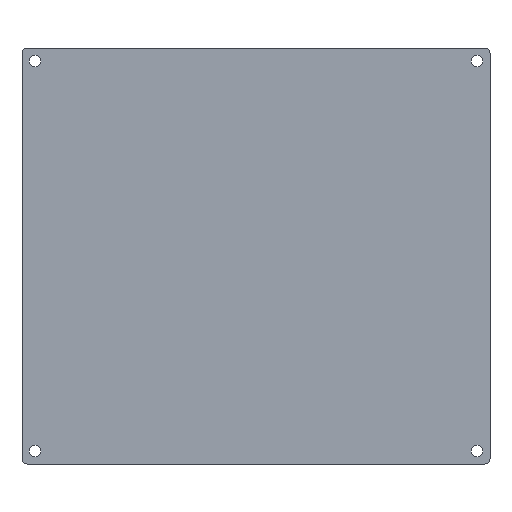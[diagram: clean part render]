
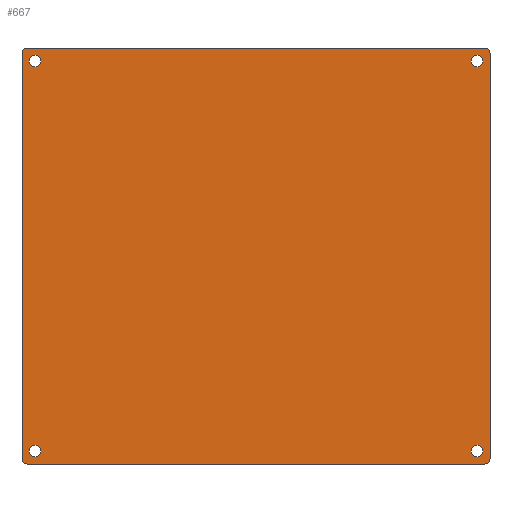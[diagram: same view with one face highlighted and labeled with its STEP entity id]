
A CAD part, front view. The second image highlights one B-rep face of the part: STEP entity #667.
In plain terms, the highlighted planar face has unit normal (0, -1, 0).
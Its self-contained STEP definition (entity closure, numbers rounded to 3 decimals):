
#93=FACE_BOUND('',#1347,.T.);
#94=FACE_BOUND('',#1348,.T.);
#95=FACE_BOUND('',#1349,.T.);
#96=FACE_BOUND('',#1350,.T.);
#97=FACE_BOUND('',#1351,.T.);
#355=CIRCLE('',#5296,2.25);
#356=CIRCLE('',#5298,2.25);
#357=CIRCLE('',#5300,2.25);
#358=CIRCLE('',#5302,2.25);
#359=CIRCLE('',#5304,2.25);
#360=CIRCLE('',#5306,2.25);
#361=CIRCLE('',#5308,2.25);
#362=CIRCLE('',#5310,2.25);
#363=CIRCLE('',#5312,2.);
#364=CIRCLE('',#5314,2.);
#428=CIRCLE('',#5424,2.);
#434=CIRCLE('',#5435,2.);
#667=ADVANCED_FACE('NONE',(#93,#94,#95,#96,#97),#887,.T.);
#887=PLANE('',#5437);
#1347=EDGE_LOOP('',(#1978,#1979,#1980,#1981,#1982,#1983,#1984,#1985));
#1348=EDGE_LOOP('',(#1986,#1987));
#1349=EDGE_LOOP('',(#1988,#1989));
#1350=EDGE_LOOP('',(#1990,#1991));
#1351=EDGE_LOOP('',(#1992,#1993));
#1978=ORIENTED_EDGE('',*,*,#3736,.F.);
#1979=ORIENTED_EDGE('',*,*,#3799,.T.);
#1980=ORIENTED_EDGE('',*,*,#3800,.F.);
#1981=ORIENTED_EDGE('',*,*,#3787,.T.);
#1982=ORIENTED_EDGE('',*,*,#3764,.F.);
#1983=ORIENTED_EDGE('',*,*,#3654,.T.);
#1984=ORIENTED_EDGE('',*,*,#3721,.F.);
#1985=ORIENTED_EDGE('',*,*,#3651,.T.);
#1986=ORIENTED_EDGE('',*,*,#3649,.T.);
#1987=ORIENTED_EDGE('',*,*,#3646,.T.);
#1988=ORIENTED_EDGE('',*,*,#3645,.T.);
#1989=ORIENTED_EDGE('',*,*,#3642,.T.);
#1990=ORIENTED_EDGE('',*,*,#3641,.T.);
#1991=ORIENTED_EDGE('',*,*,#3638,.T.);
#1992=ORIENTED_EDGE('',*,*,#3637,.T.);
#1993=ORIENTED_EDGE('',*,*,#3634,.T.);
#3134=VERTEX_POINT('',#7539);
#3135=VERTEX_POINT('',#7540);
#3136=VERTEX_POINT('',#7547);
#3137=VERTEX_POINT('',#7548);
#3138=VERTEX_POINT('',#7555);
#3139=VERTEX_POINT('',#7556);
#3140=VERTEX_POINT('',#7563);
#3141=VERTEX_POINT('',#7564);
#3142=VERTEX_POINT('',#7571);
#3143=VERTEX_POINT('',#7573);
#3144=VERTEX_POINT('',#7577);
#3145=VERTEX_POINT('',#7579);
#3196=VERTEX_POINT('',#7741);
#3216=VERTEX_POINT('',#7799);
#3231=VERTEX_POINT('',#7844);
#3237=VERTEX_POINT('',#7866);
#3634=EDGE_CURVE('NONE',#3134,#3135,#355,.T.);
#3637=EDGE_CURVE('NONE',#3135,#3134,#356,.T.);
#3638=EDGE_CURVE('NONE',#3136,#3137,#357,.T.);
#3641=EDGE_CURVE('NONE',#3137,#3136,#358,.T.);
#3642=EDGE_CURVE('NONE',#3138,#3139,#359,.T.);
#3645=EDGE_CURVE('NONE',#3139,#3138,#360,.T.);
#3646=EDGE_CURVE('NONE',#3140,#3141,#361,.T.);
#3649=EDGE_CURVE('NONE',#3141,#3140,#362,.T.);
#3651=EDGE_CURVE('NONE',#3143,#3142,#363,.T.);
#3654=EDGE_CURVE('NONE',#3145,#3144,#364,.T.);
#3721=EDGE_CURVE('NONE',#3143,#3144,#4371,.T.);
#3736=EDGE_CURVE('NONE',#3196,#3142,#4383,.T.);
#3764=EDGE_CURVE('NONE',#3145,#3216,#4403,.T.);
#3787=EDGE_CURVE('NONE',#3231,#3216,#428,.T.);
#3799=EDGE_CURVE('NONE',#3196,#3237,#434,.T.);
#3800=EDGE_CURVE('NONE',#3231,#3237,#4419,.T.);
#4371=LINE('',#7712,#4841);
#4383=LINE('',#7742,#4853);
#4403=LINE('',#7798,#4873);
#4419=LINE('',#7869,#4889);
#4841=VECTOR('',#6157,1.);
#4853=VECTOR('',#6187,1.);
#4873=VECTOR('',#6241,1.);
#4889=VECTOR('',#6323,1.);
#5296=AXIS2_PLACEMENT_3D('',#7538,#5955,#5956);
#5298=AXIS2_PLACEMENT_3D('',#7544,#5961,#5962);
#5300=AXIS2_PLACEMENT_3D('',#7546,#5965,#5966);
#5302=AXIS2_PLACEMENT_3D('',#7552,#5971,#5972);
#5304=AXIS2_PLACEMENT_3D('',#7554,#5975,#5976);
#5306=AXIS2_PLACEMENT_3D('',#7560,#5981,#5982);
#5308=AXIS2_PLACEMENT_3D('',#7562,#5985,#5986);
#5310=AXIS2_PLACEMENT_3D('',#7568,#5991,#5992);
#5312=AXIS2_PLACEMENT_3D('',#7572,#5996,#5997);
#5314=AXIS2_PLACEMENT_3D('',#7578,#6002,#6003);
#5424=AXIS2_PLACEMENT_3D('',#7843,#6291,#6292);
#5435=AXIS2_PLACEMENT_3D('',#7867,#6319,#6320);
#5437=AXIS2_PLACEMENT_3D('',#7870,#6324,#6325);
#5955=DIRECTION('',(0.,1.,0.));
#5956=DIRECTION('',(0.,0.,-1.));
#5961=DIRECTION('',(0.,1.,0.));
#5962=DIRECTION('',(0.,0.,-1.));
#5965=DIRECTION('',(0.,1.,0.));
#5966=DIRECTION('',(0.,0.,1.));
#5971=DIRECTION('',(0.,1.,0.));
#5972=DIRECTION('',(0.,0.,1.));
#5975=DIRECTION('',(0.,1.,0.));
#5976=DIRECTION('',(0.,0.,-1.));
#5981=DIRECTION('',(0.,1.,0.));
#5982=DIRECTION('',(0.,0.,-1.));
#5985=DIRECTION('',(0.,1.,0.));
#5986=DIRECTION('',(0.,0.,1.));
#5991=DIRECTION('',(0.,1.,0.));
#5992=DIRECTION('',(0.,0.,1.));
#5996=DIRECTION('',(0.,-1.,0.));
#5997=DIRECTION('',(0.,0.,-1.));
#6002=DIRECTION('',(0.,-1.,0.));
#6003=DIRECTION('',(0.,0.,-1.));
#6157=DIRECTION('',(-1.,0.,0.));
#6187=DIRECTION('',(0.,0.,-1.));
#6241=DIRECTION('',(0.,0.,1.));
#6291=DIRECTION('',(0.,-1.,0.));
#6292=DIRECTION('',(0.,0.,-1.));
#6319=DIRECTION('',(0.,-1.,0.));
#6320=DIRECTION('',(0.,0.,-1.));
#6323=DIRECTION('',(1.,0.,0.));
#6324=DIRECTION('',(0.,-1.,0.));
#6325=DIRECTION('',(0.,0.,-1.));
#7538=CARTESIAN_POINT('',(-85.,0.,75.));
#7539=CARTESIAN_POINT('',(-85.,0.,72.75));
#7540=CARTESIAN_POINT('',(-85.,0.,77.25));
#7544=CARTESIAN_POINT('',(-85.,0.,75.));
#7546=CARTESIAN_POINT('',(85.,0.,75.));
#7547=CARTESIAN_POINT('',(85.,0.,72.75));
#7548=CARTESIAN_POINT('',(85.,0.,77.25));
#7552=CARTESIAN_POINT('',(85.,0.,75.));
#7554=CARTESIAN_POINT('',(85.,0.,-75.));
#7555=CARTESIAN_POINT('',(85.,0.,-77.25));
#7556=CARTESIAN_POINT('',(85.,0.,-72.75));
#7560=CARTESIAN_POINT('',(85.,0.,-75.));
#7562=CARTESIAN_POINT('',(-85.,0.,-75.));
#7563=CARTESIAN_POINT('',(-85.,0.,-77.25));
#7564=CARTESIAN_POINT('',(-85.,0.,-72.75));
#7568=CARTESIAN_POINT('',(-85.,0.,-75.));
#7571=CARTESIAN_POINT('',(90.,0.,-78.));
#7572=CARTESIAN_POINT('',(88.,0.,-78.));
#7573=CARTESIAN_POINT('',(88.,0.,-80.));
#7577=CARTESIAN_POINT('',(-88.,0.,-80.));
#7578=CARTESIAN_POINT('',(-88.,0.,-78.));
#7579=CARTESIAN_POINT('',(-90.,0.,-78.));
#7712=CARTESIAN_POINT('',(-90.,0.,-80.));
#7741=CARTESIAN_POINT('',(90.,0.,78.));
#7742=CARTESIAN_POINT('',(90.,0.,80.));
#7798=CARTESIAN_POINT('',(-90.,0.,80.));
#7799=CARTESIAN_POINT('',(-90.,0.,78.));
#7843=CARTESIAN_POINT('',(-88.,0.,78.));
#7844=CARTESIAN_POINT('',(-88.,0.,80.));
#7866=CARTESIAN_POINT('',(88.,0.,80.));
#7867=CARTESIAN_POINT('',(88.,0.,78.));
#7869=CARTESIAN_POINT('',(-90.,0.,80.));
#7870=CARTESIAN_POINT('',(0.,0.,0.));
